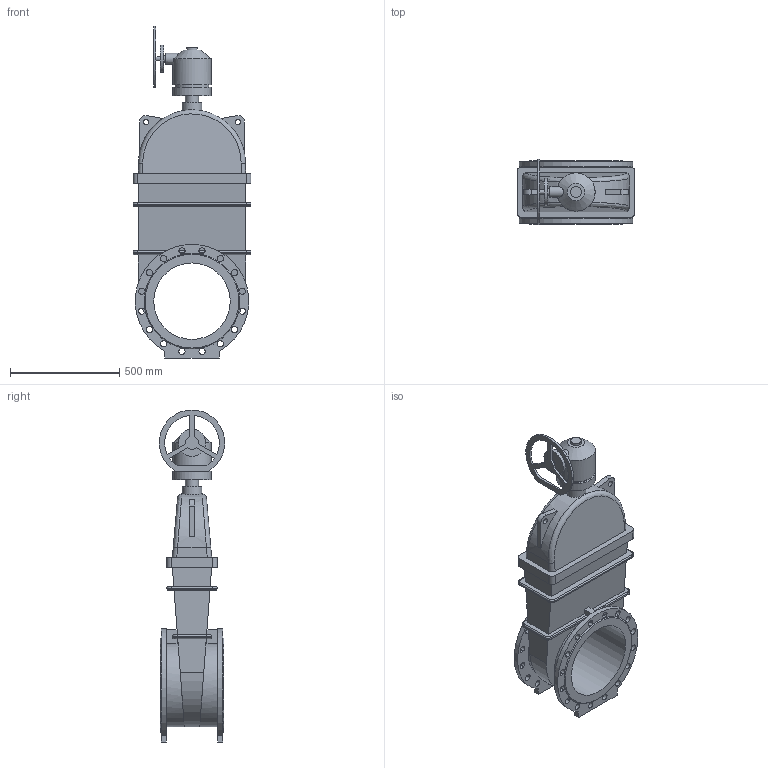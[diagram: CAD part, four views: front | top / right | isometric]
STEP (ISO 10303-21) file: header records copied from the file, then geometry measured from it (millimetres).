
FILE_DESCRIPTION(('STEP AP203'), '1');
FILE_NAME('Çàäâèæêà 47GV.Z DN350 PN10_PN16 + ðåäóêòîð ñ ìàõîâèêîì', '', ('UNSPECIFIED'), ('UNSPECIFIED'), 'ASCON STEP Converter 1.6', 'ASCON Math Kernel', '');
FILE_SCHEMA(('CONFIG_CONTROL_DESIGN'));
Length unit declared in the file: millimetre
Bounding box: 540 x 300 x 1520 mm (x, y, z)
Volume: 72154539.1 mm3; surface area: 2625918.1 mm2
Topology: 1 solids, 1 shells, 320 faces, 893 edges, 571 vertices
Faces by surface type: plane 161, cylinder 138, bspline 10, torus 8, cone 3
Full cylindrical faces by diameter (mm): 14 x4, 18 x4, 20 x1, 25 x2, 30 x1, 50 x2, 60 x1, 90 x1, 125 x1, 155 x1, 175 x2, 350 x1
Entity records: 14429 total; most frequent: CARTESIAN_POINT 3498, DIRECTION 1747, ORIENTED_EDGE 1706, EDGE_CURVE 853, AXIS2_PLACEMENT_3D 631, VERTEX_POINT 563, LINE 485, VECTOR 485
